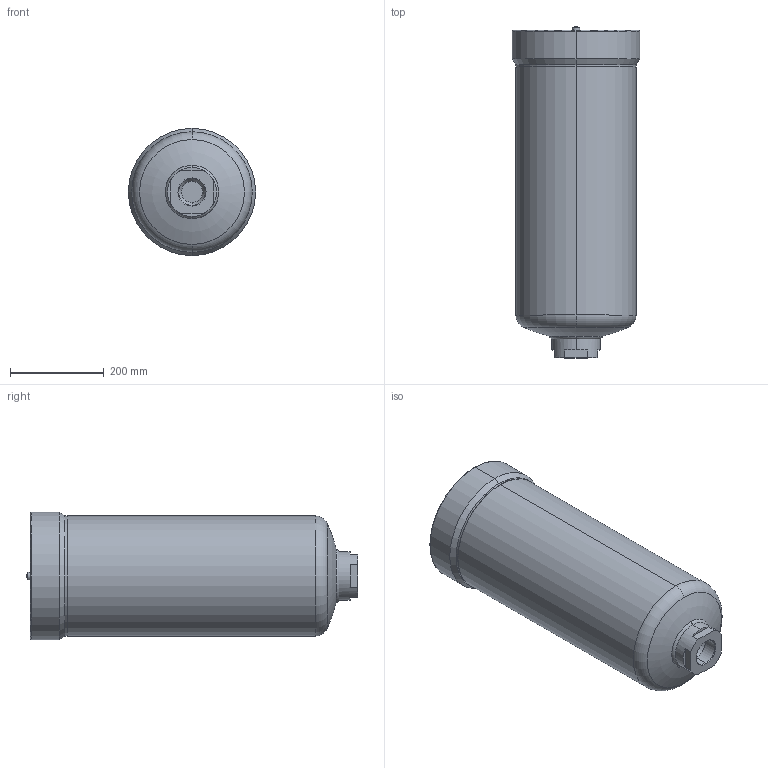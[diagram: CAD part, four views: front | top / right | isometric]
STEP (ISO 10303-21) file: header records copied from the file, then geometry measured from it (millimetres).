
FILE_DESCRIPTION (( 'STEP AP214' ), '1' );
FILE_NAME ('U250A02X1-AI.STEP', '2025-05-28T10:10:12', ( '' ), ( '' ), 'SwSTEP 2.0', 'SolidWorks 2024', '' );
FILE_SCHEMA (( 'AUTOMOTIVE_DESIGN' ));
Length unit declared in the file: millimetre
Products named in the file (1): U250A02X1-AI
Bounding box: 271 x 707.74 x 271 mm (x, y, z)
Volume: 32912916 mm3; surface area: 665070.4 mm2
Topology: 7 solids, 7 shells, 268 faces, 602 edges, 358 vertices
Faces by surface type: plane 110, cylinder 77, torus 42, cone 34, sphere 5
Entity records: 7587 total; most frequent: DIRECTION 1408, CARTESIAN_POINT 1381, ORIENTED_EDGE 1178, EDGE_CURVE 589, AXIS2_PLACEMENT_3D 571, VERTEX_POINT 358, EDGE_LOOP 307, CIRCLE 302
